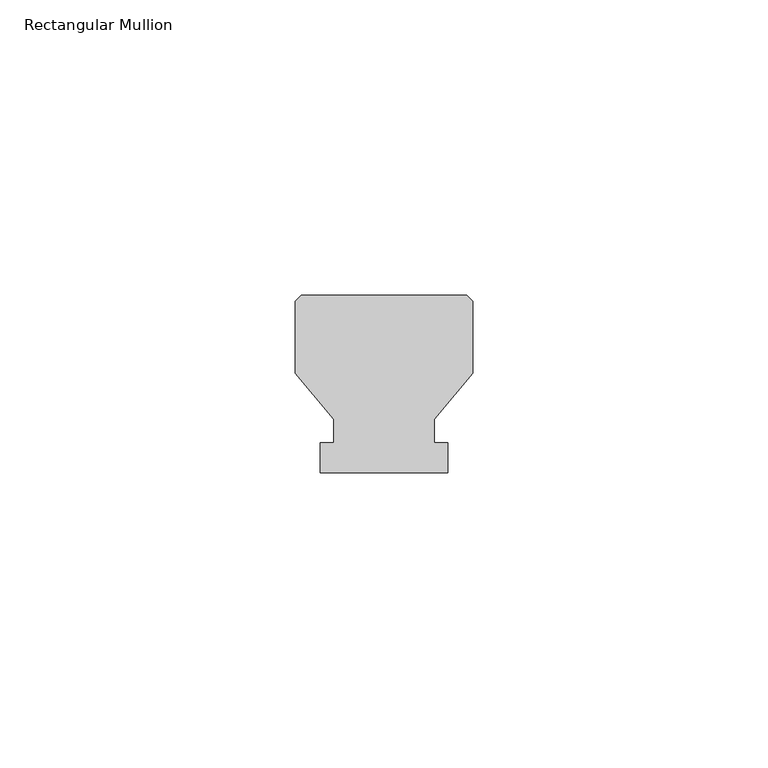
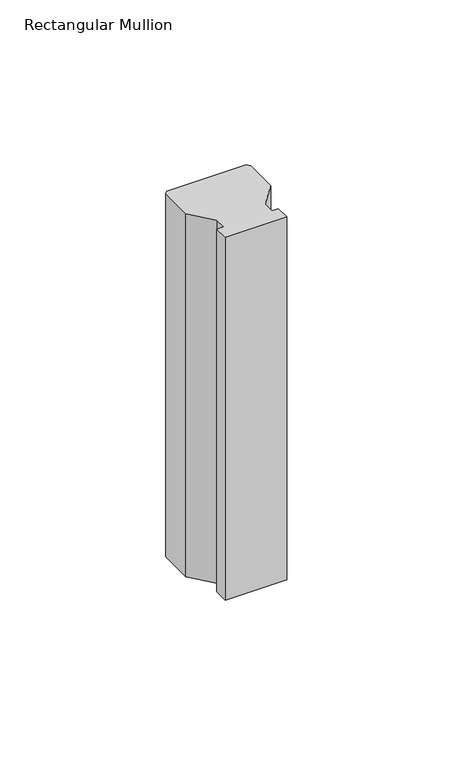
"""IFC4 building model written with IfcOpenShell, lengths in millimetres: member geometry, Rectangular Mullion : Batten_Timber_Modinex_Austratus_Grid_Fin_30x30_Hemlock."""

from ifc_helpers import new_model, si_unit, frame, origin, place, context, project, spatial, polyline, outline, extrude, source, transform, mapped, element, save


def rectangular_mullion_7f754c1e(model_context):
    return source(origin(), model_context, "Body", "SweptSolid", [
        extrude(outline(polyline([(-30.0, 16.8079815), (-30.0, 29.0), (-29.0, 30.0), (-1.0, 30.0), (0.0, 29.0), (0.0, 16.8079815), (-6.5, 9.0), (-6.5, 5.0), (-4.187805, 5.0), (-4.187805, 0.0), (-25.812195, 0.0), (-25.812195, 5.0), (-23.5, 5.0), (-23.5, 9.0), (-30.0, 16.8079815)])), frame((0.0, 0.0, -135.0000003), z_axis=(0.0, 0.0, 1.0), x_axis=(1.0, 0.0, 0.0)), (0.0, 0.0, 1.0), 135.0000003),
    ])


if __name__ == "__main__":
    model = new_model("IFC4")
    model_context = context("Model", 3, world=origin())
    ifc_project = project(units=[si_unit("LENGTHUNIT", "METRE", prefix="MILLI")], contexts=[model_context])
    site = spatial("IfcSite", under=ifc_project)
    building = spatial("IfcBuilding", under=site)
    placement = place(None, origin())
    rectangular_mullion_shape = rectangular_mullion_7f754c1e(model_context)
    element("IfcMember", 1, ObjectType="Rectangular Mullion : Batten_Timber_Modinex_Austratus_Grid_Fin_30x30_Hemlock", at=placement, inside=building, context=model_context, shape_type="MappedRepresentation", body=[
        mapped(rectangular_mullion_shape, transform((0.0, 0.0, 0.0), x_axis=(1.0, 0.0, 0.0), y_axis=(0.0, 1.0, 0.0), z_axis=(0.0, 0.0, 1.0))),
    ])
    save(model, "model.ifc")
